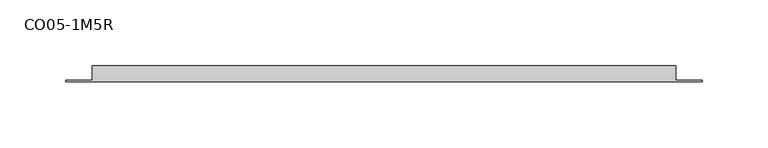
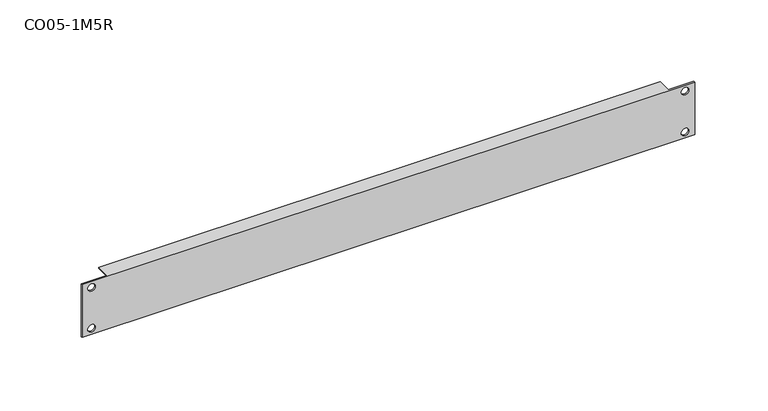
"""IFC4 building model written with IfcOpenShell, lengths in millimetres: proxy geometry, Кабельный организатор_1M5R : CO05-1M5R."""

from ifc_helpers import new_model, si_unit, frame, origin, place, context, project, spatial, polyline, circle_curve, source, transform, mapped, element, save
from ifc_brep_helpers import plane_surface, revolved_surface, advanced_brep


def co05_1m5r_9e9421cd(model_context):
    return source(origin(), model_context, "Body", "AdvancedBrep", [
        advanced_brep(
        [(-241.0, 0.0, 44.0), (-241.0, -1.0, 44.0), (241.0, -1.0, 44.0), (241.0, 0.0, 44.0), (221.0, 0.0, 44.0), (221.0, 11.0, 44.0), (-221.0, 11.0, 44.0), (-221.0, 0.0, 44.0), (241.0, 0.0, 0.0), (241.0, -1.0, 0.0), (-241.0, -1.0, 0.0), (-241.0, 0.0, 0.0), (-221.0, 0.0, 0.0), (-221.0, 11.0, 0.0), (221.0, 11.0, 0.0), (221.0, 0.0, 0.0), (221.0, 0.0, 1.0), (-221.0, 0.0, 1.0), (-221.0, 0.0, 43.0), (221.0, 0.0, 43.0), (-230.5581342, 0.0, 39.0), (-236.4927021, 0.0, 39.0), (-230.5581342, 0.0, 5.0), (-236.4927021, 0.0, 5.0), (236.4927021, 0.0, 39.0), (230.5581342, 0.0, 39.0), (236.4927021, 0.0, 5.0), (230.5581342, 0.0, 5.0), (-236.4927021, -1.0, 39.0), (-230.5581342, -1.0, 39.0), (-236.4927021, -1.0, 5.0), (-230.5581342, -1.0, 5.0), (230.5581342, -1.0, 39.0), (236.4927021, -1.0, 39.0), (230.5581342, -1.0, 5.0), (236.4927021, -1.0, 5.0), (221.0, 11.0, 43.0), (221.0, 11.0, 1.0), (-221.0, 11.0, 43.0), (-221.0, 11.0, 1.0)],
        [
            (0, 1),
            (1, 2),
            (2, 3),
            (3, 4),
            (4, 5),
            (5, 6),
            (6, 7),
            (7, 0),
            (8, 9),
            (9, 10),
            (10, 11),
            (11, 12),
            (12, 13),
            (13, 14),
            (14, 15),
            (15, 8),
            (3, 8),
            (15, 16),
            (16, 17),
            (17, 12),
            (11, 0),
            (7, 18),
            (18, 19),
            (19, 4),
            (20, 21, circle_curve(frame((-233.5254182, 0.0, 39.0), z_axis=(0.0, -1.0, 0.0), x_axis=(-1.0, 0.0, 0.0)), 2.967284)),
            (21, 20, circle_curve(frame((-233.5254182, 0.0, 39.0), z_axis=(0.0, -1.0, 0.0), x_axis=(-1.0, 0.0, 0.0)), 2.967284)),
            (22, 23, circle_curve(frame((-233.5254182, 0.0, 5.0), z_axis=(0.0, -1.0, 0.0), x_axis=(-1.0, 0.0, 0.0)), 2.967284)),
            (23, 22, circle_curve(frame((-233.5254182, 0.0, 5.0), z_axis=(0.0, -1.0, 0.0), x_axis=(-1.0, 0.0, 0.0)), 2.967284)),
            (24, 25, circle_curve(frame((233.5254182, 0.0, 39.0), z_axis=(0.0, -1.0, 0.0), x_axis=(-1.0, 0.0, 0.0)), 2.967284)),
            (25, 24, circle_curve(frame((233.5254182, 0.0, 39.0), z_axis=(0.0, -1.0, 0.0), x_axis=(-1.0, 0.0, 0.0)), 2.967284)),
            (26, 27, circle_curve(frame((233.5254182, 0.0, 5.0), z_axis=(0.0, -1.0, 0.0), x_axis=(-1.0, 0.0, 0.0)), 2.967284)),
            (27, 26, circle_curve(frame((233.5254182, 0.0, 5.0), z_axis=(0.0, -1.0, 0.0), x_axis=(-1.0, 0.0, 0.0)), 2.967284)),
            (10, 1),
            (9, 2),
            (28, 29, circle_curve(frame((-233.5254182, -1.0, 39.0), z_axis=(0.0, 1.0, 0.0), x_axis=(-1.0, 0.0, 0.0)), 2.967284)),
            (29, 28, circle_curve(frame((-233.5254182, -1.0, 39.0), z_axis=(0.0, 1.0, 0.0), x_axis=(-1.0, 0.0, 0.0)), 2.967284)),
            (30, 31, circle_curve(frame((-233.5254182, -1.0, 5.0), z_axis=(0.0, 1.0, 0.0), x_axis=(-1.0, 0.0, 0.0)), 2.967284)),
            (31, 30, circle_curve(frame((-233.5254182, -1.0, 5.0), z_axis=(0.0, 1.0, 0.0), x_axis=(-1.0, 0.0, 0.0)), 2.967284)),
            (32, 33, circle_curve(frame((233.5254182, -1.0, 39.0), z_axis=(0.0, 1.0, 0.0), x_axis=(-1.0, 0.0, 0.0)), 2.967284)),
            (33, 32, circle_curve(frame((233.5254182, -1.0, 39.0), z_axis=(0.0, 1.0, 0.0), x_axis=(-1.0, 0.0, 0.0)), 2.967284)),
            (34, 35, circle_curve(frame((233.5254182, -1.0, 5.0), z_axis=(0.0, 1.0, 0.0), x_axis=(-1.0, 0.0, 0.0)), 2.967284)),
            (35, 34, circle_curve(frame((233.5254182, -1.0, 5.0), z_axis=(0.0, 1.0, 0.0), x_axis=(-1.0, 0.0, 0.0)), 2.967284)),
            (28, 21),
            (20, 29),
            (30, 23),
            (22, 31),
            (32, 25),
            (24, 33),
            (34, 27),
            (26, 35),
            (19, 36),
            (36, 5),
            (37, 16),
            (14, 37),
            (6, 38),
            (38, 18),
            (39, 13),
            (17, 39),
            (39, 37),
            (38, 36),
        ],
        [
            plane_surface(frame((-241.0, 0.0, 44.0), z_axis=(0.0, 0.0, 1.0), x_axis=(-1.0, 0.0, 0.0))),
            plane_surface(frame((-241.0, 0.0, 0.0), z_axis=(0.0, 0.0, -1.0), x_axis=(1.0, 0.0, 0.0))),
            plane_surface(frame((241.0, 0.0, 44.0), z_axis=(0.0, 1.0, 0.0), x_axis=(0.0, 0.0, -1.0))),
            plane_surface(frame((-241.0, 0.0, 44.0), z_axis=(-1.0, 0.0, 0.0), x_axis=(0.0, 0.0, -1.0))),
            plane_surface(frame((-241.0, -1.0, 44.0), z_axis=(0.0, -1.0, 0.0), x_axis=(0.0, 0.0, -1.0))),
            plane_surface(frame((241.0, -1.0, 44.0), z_axis=(1.0, 0.0, 0.0), x_axis=(0.0, 0.0, -1.0))),
            revolved_surface(polyline([(-236.4927022, -1.0, 39.0), (-236.4927022, 0.0, 39.0)]), (-233.5254182, 0.0, 39.0), (0.0, -1.0, 0.0)),
            revolved_surface(polyline([(-236.4927022, -1.0, 5.0), (-236.4927022, 0.0, 5.0)]), (-233.5254182, -1.0, 5.0), (0.0, -1.0, 0.0)),
            revolved_surface(polyline([(230.55813419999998, -1.0, 39.0), (230.55813419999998, 0.0, 39.0)]), (233.5254182, -1.0, 39.0), (0.0, -1.0, 0.0)),
            revolved_surface(polyline([(230.55813419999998, -1.0, 5.0), (230.55813419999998, 0.0, 5.0)]), (233.5254182, -1.0, 5.0), (0.0, -1.0, 0.0)),
            plane_surface(frame((221.0, 0.0, 44.0), z_axis=(1.0, 0.0, 0.0), x_axis=(0.0, 0.0, -1.0))),
            plane_surface(frame((-221.0, 0.0, 44.0), z_axis=(-1.0, 0.0, 0.0), x_axis=(0.0, 0.0, 1.0))),
            plane_surface(frame((221.0, 11.0, 0.0), z_axis=(0.0, 1.0, 0.0), x_axis=(-1.0, 0.0, 0.0))),
            plane_surface(frame((221.0, 0.0, 43.0), z_axis=(0.0, 0.0, -1.0), x_axis=(-1.0, 0.0, 0.0))),
            plane_surface(frame((221.0, 11.0, 1.0), z_axis=(0.0, 0.0, 1.0), x_axis=(-1.0, 0.0, 0.0))),
            plane_surface(frame((221.0, 11.0, 43.0), z_axis=(0.0, 1.0, 0.0), x_axis=(-1.0, 0.0, 0.0))),
        ],
        [
            (0, [[1, 2, 3, 4, 5, 6, 7, 8]]),
            (1, [[9, 10, 11, 12, 13, 14, 15, 16]]),
            (2, [[17, -16, 18, 19, 20, -12, 21, -8, 22, 23, 24, -4], [25, 26], [27, 28], [29, 30], [31, 32]]),
            (3, [[-1, -21, -11, 33]]),
            (4, [[-2, -33, -10, 34], [35, 36], [37, 38], [39, 40], [41, 42]]),
            (5, [[-3, -34, -9, -17]]),
            (6, [[43, -25, 44, -35]]),
            (6, [[-43, -36, -44, -26]]),
            (7, [[45, -27, 46, -37]]),
            (7, [[-45, -38, -46, -28]]),
            (8, [[47, -29, 48, -39]]),
            (8, [[-47, -40, -48, -30]]),
            (9, [[49, -31, 50, -41]]),
            (9, [[-49, -42, -50, -32]]),
            (10, [[51, 52, -5, -24]]),
            (10, [[53, -18, -15, 54]]),
            (11, [[-7, 55, 56, -22]]),
            (11, [[57, -13, -20, 58]]),
            (12, [[-54, -14, -57, 59]]),
            (13, [[-51, -23, -56, 60]]),
            (14, [[-53, -59, -58, -19]]),
            (15, [[-52, -60, -55, -6]]),
        ],
    ),
    ])


if __name__ == "__main__":
    model = new_model("IFC4")
    model_context = context("Model", 3, world=origin())
    ifc_project = project(units=[si_unit("LENGTHUNIT", "METRE", prefix="MILLI")], contexts=[model_context])
    site = spatial("IfcSite", under=ifc_project)
    building = spatial("IfcBuilding", under=site)
    placement = place(None, origin())
    co05_1m5r_shape = co05_1m5r_9e9421cd(model_context)
    element("IfcBuildingElementProxy", 1, Name="Кабельный организатор_1M5R : CO05-1M5R", ObjectType="Кабельный организатор_1M5R : CO05-1M5R", at=placement, inside=building, context=model_context, shape_type="MappedRepresentation", body=[
        mapped(co05_1m5r_shape, transform((0.0, 0.0, 0.0), x_axis=(1.0, 0.0, 0.0), y_axis=(0.0, 1.0, 0.0), z_axis=(0.0, 0.0, 1.0))),
    ])
    save(model, "model.ifc")
